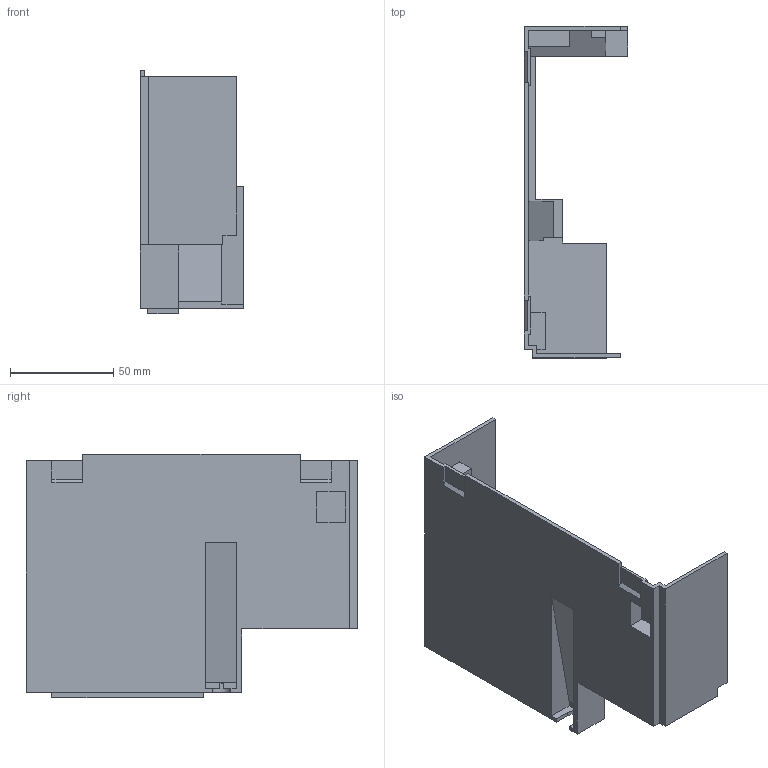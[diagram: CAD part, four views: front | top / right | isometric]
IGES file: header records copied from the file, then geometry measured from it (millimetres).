
Start section:  PTC IGES file: j4-du-700-22k-sidecover.igs
Global section: file name: j4-du-700-22k-sidecover.igs; native system: Creo Parametric by Parametric Technology Corporation; preprocessor: 2014310; author: JR20012; organization: Unknown; date: 20160927.133802; units: millimetre
Bounding box: 50 x 161 x 118 mm (x, y, z)
Volume: 62783.9 mm3; surface area: 64222.1 mm2
Topology: 1 solids, 1 shells, 100 faces, 288 edges, 192 vertices
Faces by surface type: bspline 100
